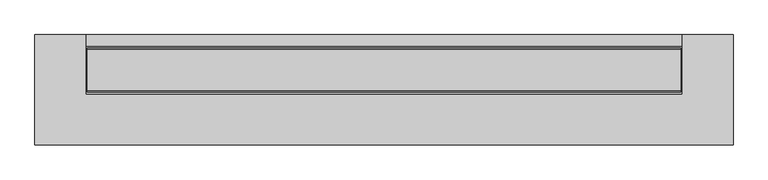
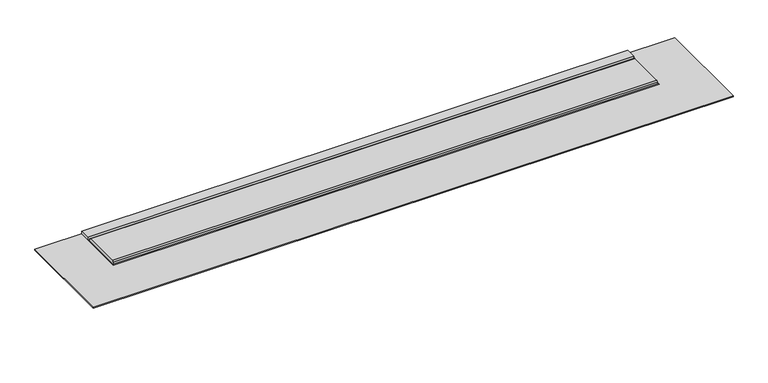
"""IFC4 building model written with IfcOpenShell, lengths in millimetres: sanitary terminal geometry, NLRS_PF_52_UN_Multi TAF Wall in_uitloop_Easydrain : Multi TAF Wall onderuitloop 50mm, zij-ingang 50mm."""

from ifc_helpers import new_model, si_unit, point, frame, frame_2d, origin, place, context, project, spatial, polyline, circle_curve, trimmed, segment, composite_curve, outline, extrude, faceted_brep, source, transform, mapped, element, save
from ifc_brep_helpers import plane_surface, cylinder_surface, revolved_surface, advanced_brep


def sanitary_terminal_fcf2dfa3(model_context):
    return source(origin(), model_context, "Body", "SolidModel", [
        advanced_brep(
        [(895.5, 0.0, -67.0), (889.5, 0.0, -67.0), (892.5, 0.0, -67.0), (895.5, 0.0, -89.5), (889.5, 0.0, -89.5), (907.5, 0.0, -97.0), (877.5, 0.0, -97.0), (892.5, 0.0, -97.0)],
        [
            (0, 1, circle_curve(frame((892.5, 0.0, -67.0), z_axis=(0.0, 0.0, 1.0), x_axis=(-1.0, 0.0, 0.0)), 3.0)),
            (1, 2),
            (2, 0),
            (1, 0, circle_curve(frame((892.5, 0.0, -67.0), z_axis=(0.0, 0.0, 1.0), x_axis=(-1.0, 0.0, 0.0)), 3.0)),
            (3, 4, circle_curve(frame((892.5, 0.0, -89.5), z_axis=(0.0, 0.0, 1.0), x_axis=(-1.0, 0.0, 0.0)), 3.0)),
            (4, 1),
            (0, 3),
            (4, 3, circle_curve(frame((892.5, 0.0, -89.5), z_axis=(0.0, 0.0, 1.0), x_axis=(-1.0, 0.0, 0.0)), 3.0)),
            (5, 6, circle_curve(frame((892.5, 0.0, -97.0), z_axis=(0.0, 0.0, 1.0), x_axis=(-1.0, 0.0, 0.0)), 15.0)),
            (6, 4),
            (3, 5),
            (6, 5, circle_curve(frame((892.5, 0.0, -97.0), z_axis=(0.0, 0.0, 1.0), x_axis=(-1.0, 0.0, 0.0)), 15.0)),
            (7, 6),
            (5, 7),
        ],
        [
            plane_surface(frame((892.5, 0.0, -67.0), z_axis=(0.0, 0.0, 1.0), x_axis=(-1.0, 0.0, 0.0))),
            cylinder_surface(frame((892.5, 0.0, -105.1782032), z_axis=(0.0, 0.0, -1.0), x_axis=(-1.0, 0.0, 0.0)), 3.0),
            revolved_surface(polyline([(889.5, 0.0, -89.5), (877.5, 0.0, -97.0)]), (892.5, 0.0, -105.1782032), (0.0, 0.0, -1.0)),
            plane_surface(frame((892.5, 0.0, -97.0), z_axis=(0.0, 0.0, -1.0), x_axis=(-1.0, 0.0, 0.0))),
        ],
        [
            (0, [[1, 2, 3]]),
            (0, [[4, -3, -2]]),
            (1, [[5, 6, -1, 7]]),
            (1, [[8, -7, -4, -6]]),
            (2, [[9, 10, -5, 11]]),
            (2, [[12, -11, -8, -10]]),
            (3, [[13, -9, 14]]),
            (3, [[-14, -12, -13]]),
        ],
    ),
        faceted_brep([(882.5, 10.0, -67.0), (902.5, 10.0, -67.0), (902.5, -10.0, -67.0), (882.5, -10.0, -67.0), (877.5, 15.0, -27.0), (877.5, -15.0, -27.0), (907.5, -15.0, -27.0), (907.5, 15.0, -27.0)], [[[0, 1, 2, 3]], [[4, 5, 6, 7]], [[5, 4, 0, 3]], [[6, 5, 3, 2]], [[7, 6, 2, 1]], [[4, 7, 1, 0]]]),
        advanced_brep(
        [(-189.5, 0.0, -67.0), (-195.5, 0.0, -67.0), (-192.5, 0.0, -67.0), (-189.5, 0.0, -89.5), (-195.5, 0.0, -89.5), (-177.5, 0.0, -97.0), (-207.5, 0.0, -97.0), (-192.5, 0.0, -97.0)],
        [
            (0, 1, circle_curve(frame((-192.5, 0.0, -67.0), z_axis=(0.0, 0.0, 1.0), x_axis=(-1.0, 0.0, 0.0)), 3.0)),
            (1, 2),
            (2, 0),
            (1, 0, circle_curve(frame((-192.5, 0.0, -67.0), z_axis=(0.0, 0.0, 1.0), x_axis=(-1.0, 0.0, 0.0)), 3.0)),
            (3, 4, circle_curve(frame((-192.5, 0.0, -89.5), z_axis=(0.0, 0.0, 1.0), x_axis=(-1.0, 0.0, 0.0)), 3.0)),
            (4, 1),
            (0, 3),
            (4, 3, circle_curve(frame((-192.5, 0.0, -89.5), z_axis=(0.0, 0.0, 1.0), x_axis=(-1.0, 0.0, 0.0)), 3.0)),
            (5, 6, circle_curve(frame((-192.5, 0.0, -97.0), z_axis=(0.0, 0.0, 1.0), x_axis=(-1.0, 0.0, 0.0)), 15.0)),
            (6, 4),
            (3, 5),
            (6, 5, circle_curve(frame((-192.5, 0.0, -97.0), z_axis=(0.0, 0.0, 1.0), x_axis=(-1.0, 0.0, 0.0)), 15.0)),
            (7, 6),
            (5, 7),
        ],
        [
            plane_surface(frame((-192.5, 0.0, -67.0), z_axis=(0.0, 0.0, 1.0), x_axis=(-1.0, 0.0, 0.0))),
            cylinder_surface(frame((-192.5, 0.0, -105.1782032), z_axis=(0.0, 0.0, -1.0), x_axis=(-1.0, 0.0, 0.0)), 3.0),
            revolved_surface(polyline([(-195.5, 0.0, -89.5), (-207.5, 0.0, -97.0)]), (-192.5, 0.0, -105.1782032), (0.0, 0.0, -1.0)),
            plane_surface(frame((-192.5, 0.0, -97.0), z_axis=(0.0, 0.0, -1.0), x_axis=(-1.0, 0.0, 0.0))),
        ],
        [
            (0, [[1, 2, 3]]),
            (0, [[4, -3, -2]]),
            (1, [[5, 6, -1, 7]]),
            (1, [[8, -7, -4, -6]]),
            (2, [[9, 10, -5, 11]]),
            (2, [[12, -11, -8, -10]]),
            (3, [[13, -9, 14]]),
            (3, [[-14, -12, -13]]),
        ],
    ),
        faceted_brep([(-202.5, 10.0, -67.0), (-182.5, 10.0, -67.0), (-182.5, -10.0, -67.0), (-202.5, -10.0, -67.0), (-207.5, 15.0, -27.0), (-207.5, -15.0, -27.0), (-177.5, -15.0, -27.0), (-177.5, 15.0, -27.0)], [[[0, 1, 2, 3]], [[4, 5, 6, 7]], [[5, 4, 0, 3]], [[6, 5, 3, 2]], [[7, 6, 2, 1]], [[4, 7, 1, 0]]]),
        extrude(outline(composite_curve([segment(polyline([(-40.0, 0.0), (40.0, 0.0)]), True, "CONTINUOUS"), segment(trimmed(circle_curve(frame_2d((40.0, -3.0)), 3.0), [point((40.0, 0.0))], [point((43.0, -3.0))], False, "CARTESIAN"), True, "CONTINUOUS"), segment(polyline([(43.0, -3.0), (43.0, -7.0), (-43.0, -7.0), (-43.0, -3.0)]), True, "CONTINUOUS"), segment(trimmed(circle_curve(frame_2d((-40.0, -3.0)), 3.0), [point((-43.0, -3.0))], [point((-40.0, 0.0))], False, "CARTESIAN"), True, "CONTINUOUS")], self_intersect=False)), frame((-230.5, 0.0, 0.0), z_axis=(1.0, 0.0, 0.0), x_axis=(0.0, 1.0, 0.0)), (0.0, 0.0, 1.0), 1161.0),
        extrude(outline(polyline([(932.5, 69.0), (932.5, 47.0), (-232.5, 47.0), (-232.5, 69.0), (932.5, 69.0)])), frame((0.0, 0.0, -7.0), z_axis=(0.0, 0.0, 1.0), x_axis=(1.0, 0.0, 0.0)), (0.0, 0.0, 1.0), 7.0),
        extrude(outline(polyline([(1032.5, 69.0), (1032.5, -147.0), (-332.5, -147.0), (-332.5, 69.0), (1032.5, 69.0)]), holes=[polyline([(932.5, 47.0), (-232.5, 47.0), (-232.5, -47.0), (932.5, -47.0), (932.5, 47.0)])]), frame((0.0, 0.0, -8.0), z_axis=(0.0, 0.0, 1.0), x_axis=(1.0, 0.0, 0.0)), (0.0, 0.0, 1.0), 2.0),
        faceted_brep([(932.5, 47.0, -27.0), (-232.5, 47.0, -27.0), (-232.5, 47.0, -9.0), (932.5, 47.0, -9.0), (-232.5, -47.0, -27.0), (932.5, -47.0, -27.0), (932.5, -47.0, -9.0), (-232.5, -47.0, -9.0), (950.0, 64.5, -7.0), (-250.0, 64.5, -7.0), (-250.0, -81.5, -7.0), (950.0, -81.5, -7.0), (950.0, 64.5, -9.0), (950.0, -81.5, -9.0), (-250.0, -81.5, -9.0), (-250.0, 64.5, -9.0)], [[[0, 1, 2, 3]], [[4, 5, 6, 7]], [[1, 0, 5, 4]], [[5, 0, 3, 6]], [[8, 9, 10, 11]], [[1, 4, 7, 2]], [[12, 13, 14, 15], [3, 2, 7, 6]], [[9, 8, 12, 15]], [[10, 9, 15, 14]], [[11, 10, 14, 13]], [[8, 11, 13, 12]]]),
    ])


if __name__ == "__main__":
    model = new_model("IFC4")
    model_context = context("Model", 3, world=origin())
    ifc_project = project(units=[si_unit("LENGTHUNIT", "METRE", prefix="MILLI")], contexts=[model_context])
    site = spatial("IfcSite", under=ifc_project)
    building = spatial("IfcBuilding", under=site)
    placement = place(None, origin())
    sanitary_terminal_shape = sanitary_terminal_fcf2dfa3(model_context)
    element("IfcSanitaryTerminal", 1, ObjectType="NLRS_PF_52_UN_Multi TAF Wall in_uitloop_Easydrain : Multi TAF Wall onderuitloop 50mm, zij-ingang 50mm", at=placement, inside=building, context=model_context, shape_type="MappedRepresentation", body=[
        mapped(sanitary_terminal_shape, transform((0.0, 0.0, 0.0), x_axis=(1.0, 0.0, 0.0), y_axis=(0.0, 1.0, 0.0), z_axis=(0.0, 0.0, 1.0))),
    ])
    save(model, "model.ifc")
